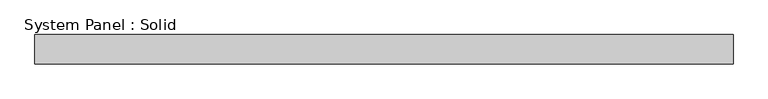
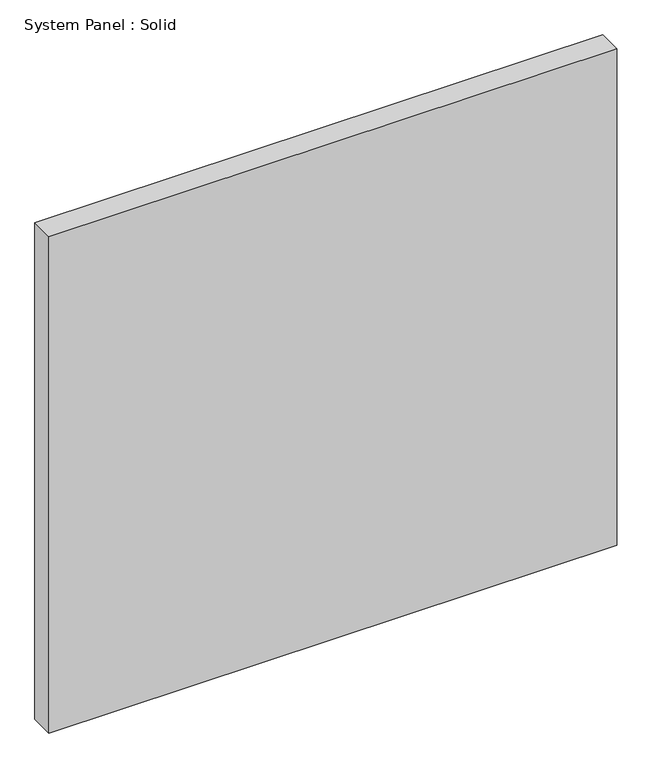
"""IFC4 building model written with IfcOpenShell, lengths in millimetres: plate geometry, System Panel : Solid."""

from ifc_helpers import new_model, si_unit, origin, origin_with_axes, place, context, project, spatial, polyline, outline, extrude, source, transform, mapped, element, save


def system_panel_solid_52262057(model_context):
    return source(origin(), model_context, "Body", "SweptSolid", [
        extrude(outline(polyline([(708.7366102, -49.5), (-708.7366102, -49.5), (-708.7366102, 10.5), (708.7366102, 10.5), (708.7366102, -49.5)])), origin_with_axes(), (0.0, 0.0, 1.0), 1310.0),
    ])


if __name__ == "__main__":
    model = new_model("IFC4")
    model_context = context("Model", 3, world=origin())
    ifc_project = project(units=[si_unit("LENGTHUNIT", "METRE", prefix="MILLI")], contexts=[model_context])
    site = spatial("IfcSite", under=ifc_project)
    building = spatial("IfcBuilding", under=site)
    placement = place(None, origin())
    system_panel_solid_shape = system_panel_solid_52262057(model_context)
    element("IfcPlate", 1, ObjectType="System Panel : Solid", at=placement, inside=building, context=model_context, shape_type="MappedRepresentation", body=[
        mapped(system_panel_solid_shape, transform((0.0, 0.0, 0.0), x_axis=(1.0, 0.0, 0.0), y_axis=(0.0, 1.0, 0.0), z_axis=(0.0, 0.0, 1.0))),
    ])
    save(model, "model.ifc")
